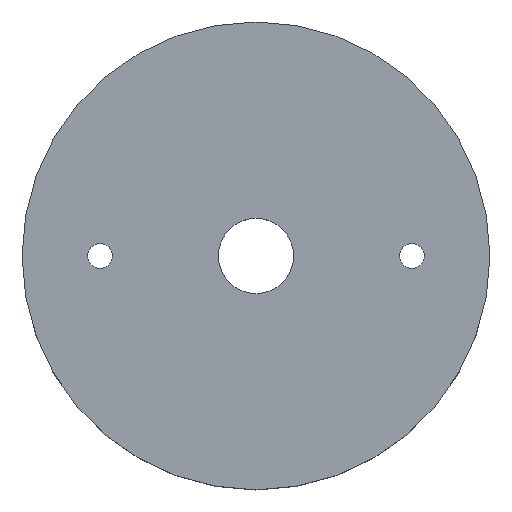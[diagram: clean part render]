
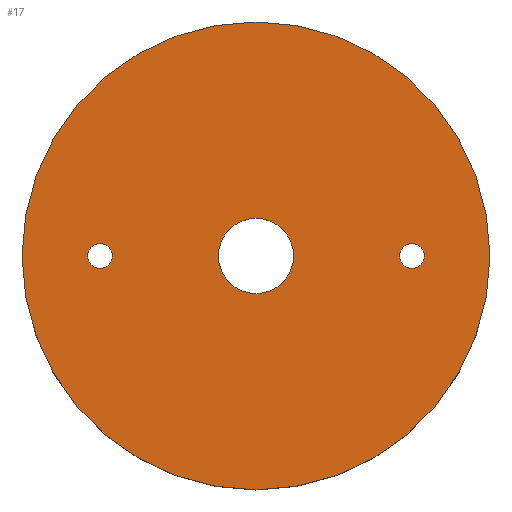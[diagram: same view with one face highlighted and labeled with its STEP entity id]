
A CAD part, top view. The second image highlights one B-rep face of the part: STEP entity #17.
In plain terms, the highlighted planar face has unit normal (0, 0, 1).
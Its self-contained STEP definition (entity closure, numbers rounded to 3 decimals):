
#17 = ADVANCED_FACE('',(#18,#29,#40,#51),#62,.T.);
#18 = FACE_BOUND('',#19,.T.);
#19 = EDGE_LOOP('',(#20));
#20 = ORIENTED_EDGE('',*,*,#21,.T.);
#21 = EDGE_CURVE('',#22,#22,#24,.T.);
#22 = VERTEX_POINT('',#23);
#23 = CARTESIAN_POINT('',(43.5,21.75,9.5));
#24 = CIRCLE('',#25,21.75);
#25 = AXIS2_PLACEMENT_3D('',#26,#27,#28);
#26 = CARTESIAN_POINT('',(21.75,21.75,9.5));
#27 = DIRECTION('',(0.,0.,1.));
#28 = DIRECTION('',(1.,0.,-0.));
#29 = FACE_BOUND('',#30,.T.);
#30 = EDGE_LOOP('',(#31));
#31 = ORIENTED_EDGE('',*,*,#32,.F.);
#32 = EDGE_CURVE('',#33,#33,#35,.T.);
#33 = VERTEX_POINT('',#34);
#34 = CARTESIAN_POINT('',(8.4,21.75,9.5));
#35 = CIRCLE('',#36,1.15);
#36 = AXIS2_PLACEMENT_3D('',#37,#38,#39);
#37 = CARTESIAN_POINT('',(7.25,21.75,9.5));
#38 = DIRECTION('',(0.,0.,1.));
#39 = DIRECTION('',(1.,0.,-0.));
#40 = FACE_BOUND('',#41,.T.);
#41 = EDGE_LOOP('',(#42));
#42 = ORIENTED_EDGE('',*,*,#43,.F.);
#43 = EDGE_CURVE('',#44,#44,#46,.T.);
#44 = VERTEX_POINT('',#45);
#45 = CARTESIAN_POINT('',(25.25,21.75,9.5));
#46 = CIRCLE('',#47,3.5);
#47 = AXIS2_PLACEMENT_3D('',#48,#49,#50);
#48 = CARTESIAN_POINT('',(21.75,21.75,9.5));
#49 = DIRECTION('',(0.,0.,1.));
#50 = DIRECTION('',(1.,0.,-0.));
#51 = FACE_BOUND('',#52,.T.);
#52 = EDGE_LOOP('',(#53));
#53 = ORIENTED_EDGE('',*,*,#54,.F.);
#54 = EDGE_CURVE('',#55,#55,#57,.T.);
#55 = VERTEX_POINT('',#56);
#56 = CARTESIAN_POINT('',(37.4,21.75,9.5));
#57 = CIRCLE('',#58,1.15);
#58 = AXIS2_PLACEMENT_3D('',#59,#60,#61);
#59 = CARTESIAN_POINT('',(36.25,21.75,9.5));
#60 = DIRECTION('',(0.,0.,1.));
#61 = DIRECTION('',(1.,0.,-0.));
#62 = PLANE('',#63);
#63 = AXIS2_PLACEMENT_3D('',#64,#65,#66);
#64 = CARTESIAN_POINT('',(21.75,21.75,9.5));
#65 = DIRECTION('',(0.,0.,1.));
#66 = DIRECTION('',(1.,0.,-0.));
